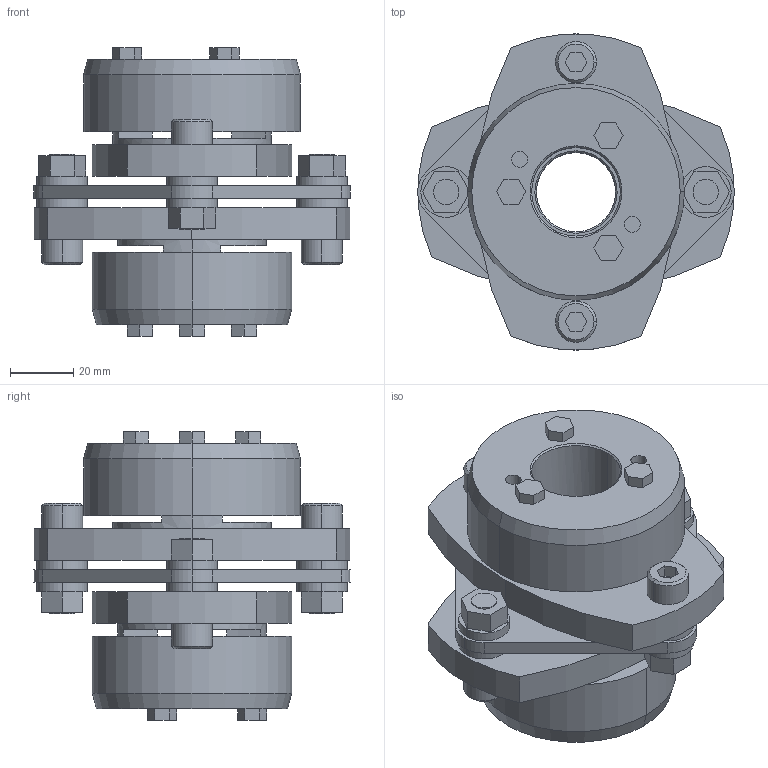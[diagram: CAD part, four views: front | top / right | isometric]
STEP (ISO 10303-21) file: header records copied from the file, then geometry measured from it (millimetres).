
FILE_DESCRIPTION((''),'2;1');
FILE_NAME('LCS-100T7-25×28.stp','2015-11-02T07:48:45',(''),(''),'AutoCAD STEP 2000i','AutoCAD 2000i',', , ');
FILE_SCHEMA(('CONFIG_CONTROL_DESIGN'));
Length unit declared in the file: millimetre
Products named in the file (8): LCS-100T7-25×28; 忣兜1; LC100T7-T028-1; LC100T7-T025-1; LC100T7-T025; LC100T7-T022-1; LC100T7-T022; LCS100-ITA
Assembly tree (7 placements, depth 2):
  LCS-100T7-25×28
    忣兜1
    LC100T7-T028-1
    LC100T7-T025-1
    LC100T7-T025
    LC100T7-T022-1
    LC100T7-T022
    LCS100-ITA
Bounding box: 100 x 99.93 x 91 mm (x, y, z)
Volume: 262527.5 mm3; surface area: 64094.6 mm2
Topology: 1 solids, 1 shells, 232 faces, 568 edges, 372 vertices
Faces by surface type: plane 132, cylinder 80, cone 20
Entity records: 7077 total; most frequent: DIRECTION 1244, CARTESIAN_POINT 1180, ORIENTED_EDGE 1136, EDGE_CURVE 568, AXIS2_PLACEMENT_3D 436, VERTEX_POINT 372, VECTOR 372, LINE 372
